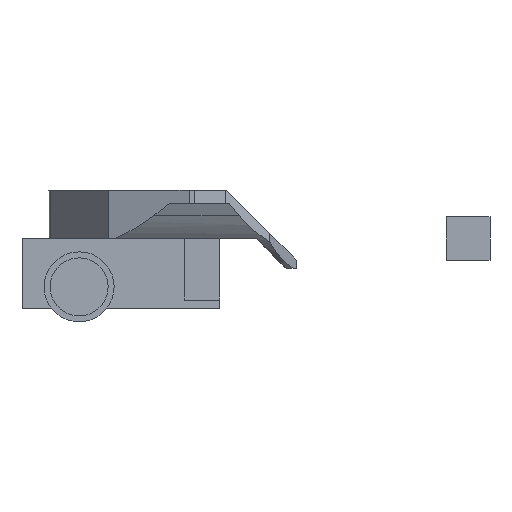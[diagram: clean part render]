
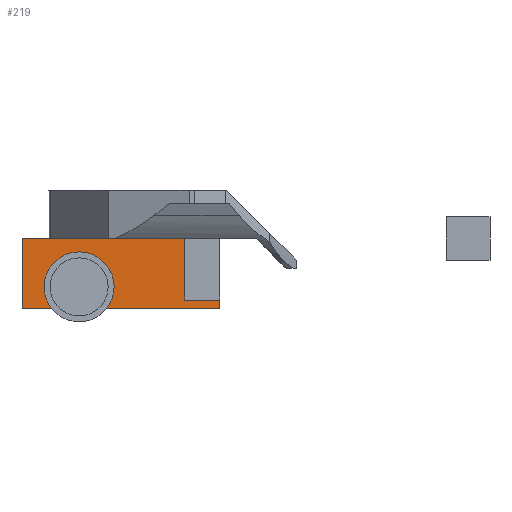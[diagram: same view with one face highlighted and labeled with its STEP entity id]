
A CAD part, left-side view. The second image highlights one B-rep face of the part: STEP entity #219.
In plain terms, the highlighted planar face has unit normal (-1, 0, 0).
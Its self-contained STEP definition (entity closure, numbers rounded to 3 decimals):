
#219 = ADVANCED_FACE( '', ( #437, #438 ), #439, .F. );
#437 = FACE_BOUND( '', #674, .T. );
#438 = FACE_OUTER_BOUND( '', #675, .T. );
#439 = PLANE( '', #676 );
#674 = EDGE_LOOP( '', ( #1105 ) );
#675 = EDGE_LOOP( '', ( #1106, #1107, #1108, #1109, #1110, #1111 ) );
#676 = AXIS2_PLACEMENT_3D( '', #1112, #1113, #1114 );
#1105 = ORIENTED_EDGE( '', *, *, #1550, .T. );
#1106 = ORIENTED_EDGE( '', *, *, #1551, .F. );
#1107 = ORIENTED_EDGE( '', *, *, #1537, .F. );
#1108 = ORIENTED_EDGE( '', *, *, #1552, .T. );
#1109 = ORIENTED_EDGE( '', *, *, #1431, .T. );
#1110 = ORIENTED_EDGE( '', *, *, #1507, .F. );
#1111 = ORIENTED_EDGE( '', *, *, #1528, .F. );
#1112 = CARTESIAN_POINT( '', ( 0., 45., 16. ) );
#1113 = DIRECTION( '', ( 1., 0., 0. ) );
#1114 = DIRECTION( '', ( 0., 0., -1. ) );
#1431 = EDGE_CURVE( '', #1676, #1696, #1698, .T. );
#1507 = EDGE_CURVE( '', #1818, #1696, #1820, .T. );
#1528 = EDGE_CURVE( '', #1848, #1818, #1850, .T. );
#1537 = EDGE_CURVE( '', #1863, #1865, #1866, .T. );
#1550 = EDGE_CURVE( '', #1880, #1880, #1881, .T. );
#1551 = EDGE_CURVE( '', #1865, #1848, #1882, .T. );
#1552 = EDGE_CURVE( '', #1863, #1676, #1883, .T. );
#1676 = VERTEX_POINT( '', #2039 );
#1696 = VERTEX_POINT( '', #2067 );
#1698 = LINE( '', #2070, #2071 );
#1818 = VERTEX_POINT( '', #2238 );
#1820 = LINE( '', #2241, #2242 );
#1848 = VERTEX_POINT( '', #2283 );
#1850 = LINE( '', #2286, #2287 );
#1863 = VERTEX_POINT( '', #2303 );
#1865 = VERTEX_POINT( '', #2306 );
#1866 = LINE( '', #2307, #2308 );
#1880 = VERTEX_POINT( '', #2330 );
#1881 = CIRCLE( '', #2331, 1.95 );
#1882 = LINE( '', #2332, #2333 );
#1883 = LINE( '', #2334, #2335 );
#2039 = CARTESIAN_POINT( '', ( 0., 45., 0. ) );
#2067 = CARTESIAN_POINT( '', ( 0., 0., 0. ) );
#2070 = CARTESIAN_POINT( '', ( 0., 45., 0. ) );
#2071 = VECTOR( '', #2463, 1000. );
#2238 = CARTESIAN_POINT( '', ( 0., 0., 2. ) );
#2241 = CARTESIAN_POINT( '', ( 0., 0., 16. ) );
#2242 = VECTOR( '', #2548, 1000. );
#2283 = CARTESIAN_POINT( '', ( 0., 8., 2. ) );
#2286 = CARTESIAN_POINT( '', ( 0., 8., 2. ) );
#2287 = VECTOR( '', #2566, 1000. );
#2303 = CARTESIAN_POINT( '', ( 0., 45., 16. ) );
#2306 = CARTESIAN_POINT( '', ( 0., 8., 16. ) );
#2307 = CARTESIAN_POINT( '', ( 0., 45., 16. ) );
#2308 = VECTOR( '', #2580, 1000. );
#2330 = CARTESIAN_POINT( '', ( 0., 32., 3.05 ) );
#2331 = AXIS2_PLACEMENT_3D( '', #2589, #2590, #2591 );
#2332 = CARTESIAN_POINT( '', ( 0., 8., 18. ) );
#2333 = VECTOR( '', #2592, 1000. );
#2334 = CARTESIAN_POINT( '', ( 0., 45., 16. ) );
#2335 = VECTOR( '', #2593, 1000. );
#2463 = DIRECTION( '', ( 0., -1., 0. ) );
#2548 = DIRECTION( '', ( 0., 0., -1. ) );
#2566 = DIRECTION( '', ( 0., -1., 0. ) );
#2580 = DIRECTION( '', ( 0., -1., 0. ) );
#2589 = CARTESIAN_POINT( '', ( 0., 32., 5. ) );
#2590 = DIRECTION( '', ( 1., 0., 0. ) );
#2591 = DIRECTION( '', ( 0., 0., -1. ) );
#2592 = DIRECTION( '', ( 0., 0., -1. ) );
#2593 = DIRECTION( '', ( 0., 0., -1. ) );
